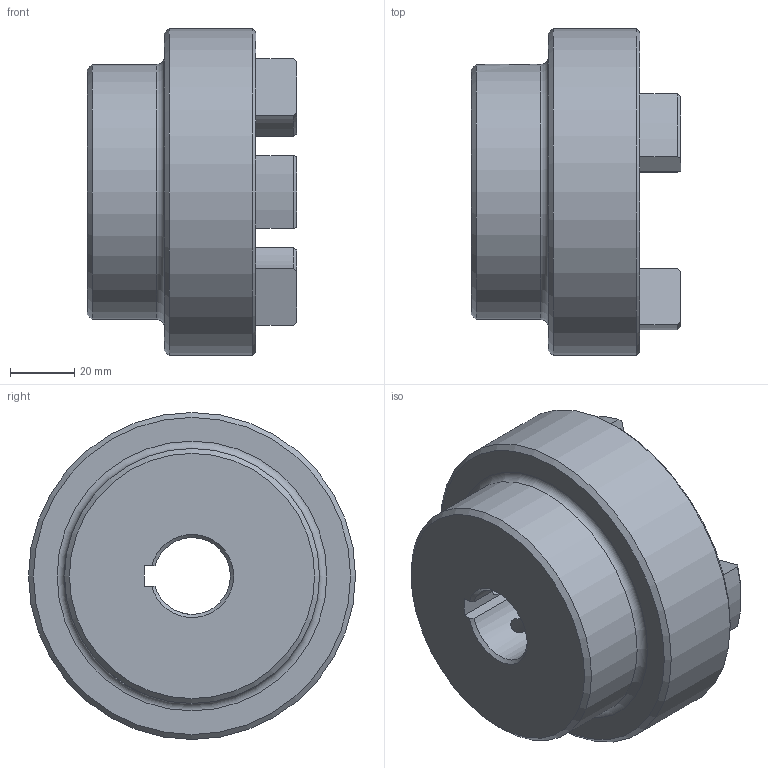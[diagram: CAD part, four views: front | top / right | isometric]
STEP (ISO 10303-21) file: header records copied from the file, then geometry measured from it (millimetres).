
FILE_DESCRIPTION (( 'STEP AP203' ), '1' );
FILE_NAME ('RC4.step', '2024-07-24T17:34:37', ( 'Adlan' ), ( '' ), 'SwSTEP 2.0', 'SolidWorks 2013', '' );
FILE_SCHEMA (( 'CONFIG_CONTROL_DESIGN' ));
Length unit declared in the file: inch
Products named in the file (1): RC4
Bounding box: 65.02 x 101.6 x 101.6 mm (x, y, z)
Volume: 262127.6 mm3; surface area: 41158.4 mm2
Topology: 1 solids, 1 shells, 67 faces, 168 edges, 105 vertices
Faces by surface type: cylinder 26, plane 16, torus 13, cone 12
Full cylindrical faces by diameter (mm): 5.105 x2, 79.248 x1, 101.6 x1
Entity records: 2239 total; most frequent: CARTESIAN_POINT 564, DIRECTION 354, ORIENTED_EDGE 310, EDGE_CURVE 155, AXIS2_PLACEMENT_3D 142, VERTEX_POINT 102, EDGE_LOOP 85, CIRCLE 74
